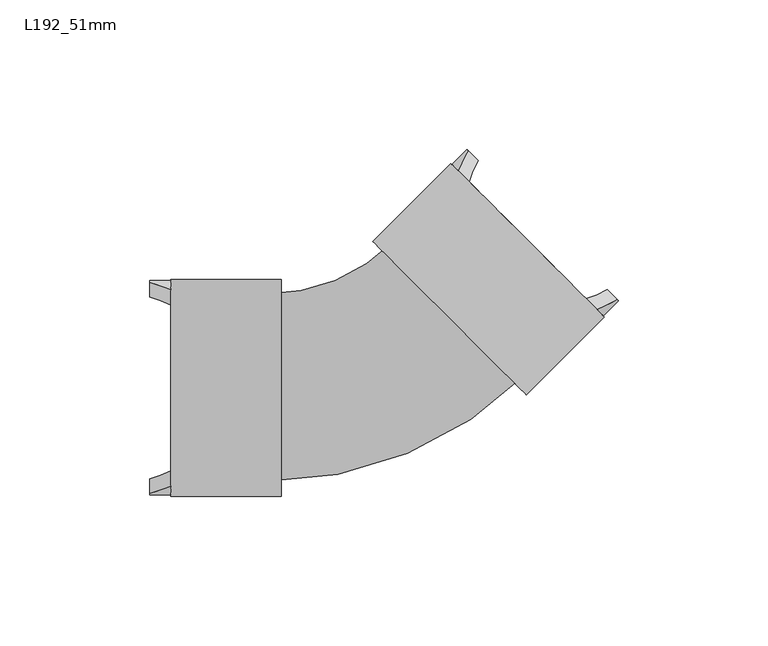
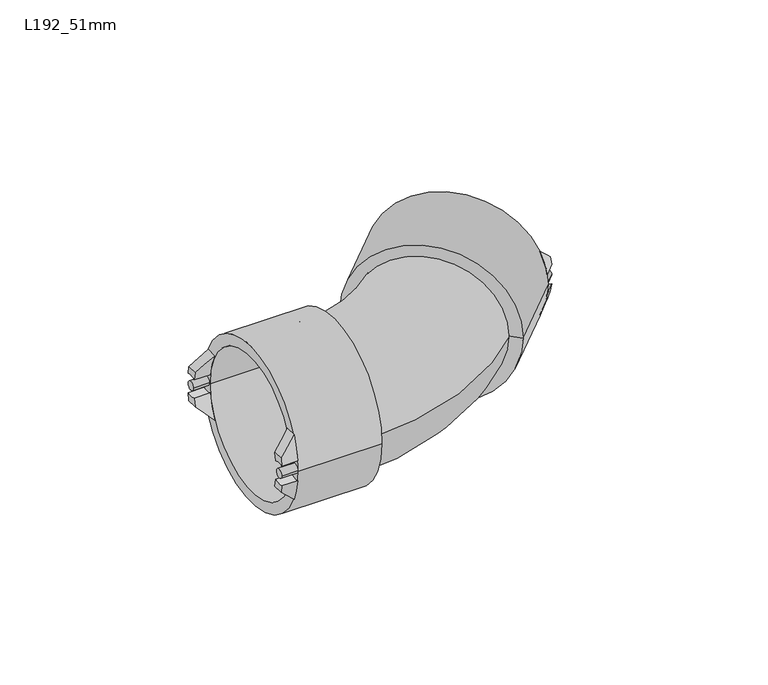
"""IFC4 building model written with IfcOpenShell, lengths in millimetres: pipe fitting geometry, Durapipe_PipeFitting_VulcatheneEnfusion_DoubleSocketSlowBend_L19 : L192_51mm."""

from ifc_helpers import new_model, si_unit, point, frame, frame_2d, origin, place, context, project, spatial, polyline, circle_curve, ellipse_curve, trimmed, segment, composite_curve, outline, extrude, source, transform, mapped, element, save
from ifc_brep_helpers import plane_surface, cylinder_surface, revolved_surface, advanced_brep


def l192_51mm_1da5b1f7(model_context):
    return source(origin(), model_context, "Body", "SolidModel", [
        advanced_brep(
        [(32.3835751, 76.5216847, 4.2618822), (29.0955286, 79.8097313, 4.5669819), (29.5149185, 79.3903413, 7.94), (32.8979738, 76.007286, 7.94), (26.174673, 72.6896706, 15.0), (24.0750704, 74.7892731, 4.5669819), (27.363117, 71.5012266, 4.2618822), (29.8458245, 69.0185191, 15.0)],
        [
            (0, 1, circle_curve(frame((30.534743, 78.3705168, 0.0), z_axis=(-0.7071067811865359, -0.7071067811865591, 0.0), x_axis=(0.7071067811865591, -0.7071067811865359, 0.0)), 5.0)),
            (1, 2, circle_curve(frame((54.4526299, 54.4526299, 0.0), z_axis=(0.7071067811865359, 0.7071067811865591, 0.0), x_axis=(0.7071067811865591, -0.7071067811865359, 0.0)), 36.15)),
            (2, 3),
            (3, 0, circle_curve(frame((54.4526299, 54.4526299, 0.0), z_axis=(-0.7071067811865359, -0.7071067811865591, 0.0), x_axis=(0.7071067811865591, -0.7071067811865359, 0.0)), 31.5)),
            (4, 5, circle_curve(frame((49.4321718, 49.4321718, 0.0), z_axis=(-0.7071067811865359, -0.7071067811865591, 0.0), x_axis=(0.7071067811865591, -0.7071067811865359, 0.0)), 36.15)),
            (5, 6, circle_curve(frame((25.5142849, 73.3500586, 0.0), z_axis=(0.7071067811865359, 0.7071067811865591, 0.0), x_axis=(0.7071067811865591, -0.7071067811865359, 0.0)), 5.0)),
            (6, 7, circle_curve(frame((49.4321718, 49.4321718, 0.0), z_axis=(0.7071067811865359, 0.7071067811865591, 0.0), x_axis=(0.7071067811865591, -0.7071067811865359, 0.0)), 31.5)),
            (7, 4),
            (6, 0),
            (3, 7, ellipse_curve(frame((60.0988676, 60.0988676, 0.0), z_axis=(0.49858558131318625, 0.49858558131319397, 0.7091014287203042), x_axis=(-0.5014104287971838, -0.5014104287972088, 0.705106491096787)), 44.674103, 31.5)),
            (4, 2, ellipse_curve(frame((60.0988676, 60.0988676, 0.0), z_axis=(-0.49858558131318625, -0.49858558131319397, -0.7091014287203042), x_axis=(0.5014104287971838, 0.5014104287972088, -0.705106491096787)), 51.2688515, 36.15)),
            (1, 5),
        ],
        [
            plane_surface(frame((31.1951311, 77.7101287, 15.0), z_axis=(0.7071067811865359, 0.7071067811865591, 0.0), x_axis=(0.7071067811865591, -0.7071067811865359, 0.0))),
            plane_surface(frame((26.174673, 72.6896706, 15.0), z_axis=(-0.7071067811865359, -0.7071067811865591, 0.0), x_axis=(-0.7071067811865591, 0.7071067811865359, 0.0))),
            revolved_surface(polyline([(59.9726700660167, 15.424942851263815, 0.0), (104.77279234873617, 60.22506513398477, 0.0)]), (49.4321718, 49.4321718, 0.0), (-0.7071067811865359, -0.7071067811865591, 0.0)),
            cylinder_surface(frame((49.4321718, 49.4321718, 0.0), z_axis=(0.7071067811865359, 0.7071067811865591, 0.0), x_axis=(0.7071067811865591, -0.7071067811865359, 0.0)), 36.15),
            revolved_surface(polyline([(34.07027700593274, 74.83498289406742, 0.0), (29.049818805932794, 69.81452469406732, 0.0)]), (25.5142849, 73.3500586, 0.0), (0.7071067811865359, 0.7071067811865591, 0.0)),
            plane_surface(frame((74.9940819, 23.8702616, 15.0), z_axis=(0.49858558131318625, 0.49858558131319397, 0.7091014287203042), x_axis=(-0.7071067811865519, 0.7071067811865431, 0.0))),
        ],
        [
            (0, [[1, 2, 3, 4]]),
            (1, [[5, 6, 7, 8]]),
            (2, [[-7, 9, -4, 10]]),
            (3, [[-5, 11, -2, 12]]),
            (4, [[-1, -9, -6, -12]]),
            (5, [[-3, -11, -8, -10]]),
        ],
    ),
        advanced_brep(
        [(29.0955286, 79.8097313, -4.5669819), (32.3835751, 76.5216847, -4.2618822), (32.8979738, 76.007286, -7.94), (29.5149185, 79.3903413, -7.94), (24.0750704, 74.7892731, -4.5669819), (26.174673, 72.6896706, -15.0), (29.8458245, 69.0185191, -15.0), (27.363117, 71.5012266, -4.2618822)],
        [
            (0, 1, circle_curve(frame((30.534743, 78.3705168, 0.0), z_axis=(-0.7071067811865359, -0.7071067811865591, 0.0), x_axis=(0.7071067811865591, -0.7071067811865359, 0.0)), 5.0)),
            (1, 2, circle_curve(frame((54.4526299, 54.4526299, 0.0), z_axis=(-0.7071067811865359, -0.7071067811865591, 0.0), x_axis=(0.7071067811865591, -0.7071067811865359, 0.0)), 31.5)),
            (2, 3),
            (3, 0, circle_curve(frame((54.4526299, 54.4526299, 0.0), z_axis=(0.7071067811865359, 0.7071067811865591, 0.0), x_axis=(0.7071067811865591, -0.7071067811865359, 0.0)), 36.15)),
            (4, 5, circle_curve(frame((49.4321718, 49.4321718, 0.0), z_axis=(-0.7071067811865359, -0.7071067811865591, 0.0), x_axis=(0.7071067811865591, -0.7071067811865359, 0.0)), 36.15)),
            (5, 6),
            (6, 7, circle_curve(frame((49.4321718, 49.4321718, 0.0), z_axis=(0.7071067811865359, 0.7071067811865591, 0.0), x_axis=(0.7071067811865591, -0.7071067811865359, 0.0)), 31.5)),
            (7, 4, circle_curve(frame((25.5142849, 73.3500586, 0.0), z_axis=(0.7071067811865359, 0.7071067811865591, 0.0), x_axis=(0.7071067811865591, -0.7071067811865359, 0.0)), 5.0)),
            (6, 2, ellipse_curve(frame((60.0988676, 60.0988676, 0.0), z_axis=(0.49858558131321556, 0.4985855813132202, -0.7091014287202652), x_axis=(-0.5014104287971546, -0.5014104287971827, -0.7051064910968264)), 44.674103, 31.5)),
            (1, 7),
            (4, 0),
            (3, 5, ellipse_curve(frame((60.0988676, 60.0988676, 0.0), z_axis=(-0.49858558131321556, -0.4985855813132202, 0.7091014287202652), x_axis=(0.5014104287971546, 0.5014104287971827, 0.7051064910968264)), 51.2688515, 36.15)),
        ],
        [
            plane_surface(frame((31.1951311, 77.7101287, 15.0), z_axis=(0.7071067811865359, 0.7071067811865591, 0.0), x_axis=(0.7071067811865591, -0.7071067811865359, 0.0))),
            plane_surface(frame((26.174673, 72.6896706, 15.0), z_axis=(-0.7071067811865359, -0.7071067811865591, 0.0), x_axis=(-0.7071067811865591, 0.7071067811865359, 0.0))),
            revolved_surface(polyline([(59.972670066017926, 15.424942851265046, 0.0), (104.77279234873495, 60.22506513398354, 0.0)]), (49.4321718, 49.4321718, 0.0), (-0.7071067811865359, -0.7071067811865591, 0.0)),
            cylinder_surface(frame((49.4321718, 49.4321718, 0.0), z_axis=(0.7071067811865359, 0.7071067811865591, 0.0), x_axis=(0.7071067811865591, -0.7071067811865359, 0.0)), 36.15),
            revolved_surface(polyline([(34.07027700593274, 74.83498289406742, 0.0), (29.049818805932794, 69.81452469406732, 0.0)]), (25.5142849, 73.3500586, 0.0), (0.7071067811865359, 0.7071067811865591, 0.0)),
            plane_surface(frame((80.0145401, 28.8907198, -7.94), z_axis=(0.49858558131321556, 0.4985855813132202, -0.7091014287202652), x_axis=(-0.7071067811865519, 0.7071067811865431, 0.0))),
        ],
        [
            (0, [[1, 2, 3, 4]]),
            (1, [[5, 6, 7, 8]]),
            (2, [[-7, 9, -2, 10]]),
            (3, [[-5, 11, -4, 12]]),
            (4, [[-1, -11, -8, -10]]),
            (5, [[-3, -9, -6, -12]]),
        ],
    ),
        advanced_brep(
        [(79.8097313, 29.0955286, 4.5669819), (76.5216847, 32.3835751, 4.2618822), (76.007286, 32.8979738, 7.94), (79.3903413, 29.5149185, 7.94), (74.7892731, 24.0750704, 4.5669819), (72.6896706, 26.174673, 15.0), (69.0185191, 29.8458245, 15.0), (71.5012266, 27.363117, 4.2618822)],
        [
            (0, 1, circle_curve(frame((78.3705168, 30.534743, 0.0), z_axis=(-0.7071067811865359, -0.7071067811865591, 0.0), x_axis=(0.7071067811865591, -0.7071067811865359, 0.0)), 5.0)),
            (1, 2, circle_curve(frame((54.4526299, 54.4526299, 0.0), z_axis=(-0.7071067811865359, -0.7071067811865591, 0.0), x_axis=(0.7071067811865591, -0.7071067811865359, 0.0)), 31.5)),
            (2, 3),
            (3, 0, circle_curve(frame((54.4526299, 54.4526299, 0.0), z_axis=(0.7071067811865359, 0.7071067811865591, 0.0), x_axis=(0.7071067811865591, -0.7071067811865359, 0.0)), 36.15)),
            (4, 5, circle_curve(frame((49.4321718, 49.4321718, 0.0), z_axis=(-0.7071067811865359, -0.7071067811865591, 0.0), x_axis=(0.7071067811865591, -0.7071067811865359, 0.0)), 36.15)),
            (5, 6),
            (6, 7, circle_curve(frame((49.4321718, 49.4321718, 0.0), z_axis=(0.7071067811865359, 0.7071067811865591, 0.0), x_axis=(0.7071067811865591, -0.7071067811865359, 0.0)), 31.5)),
            (7, 4, circle_curve(frame((73.3500586, 25.5142849, 0.0), z_axis=(0.7071067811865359, 0.7071067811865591, 0.0), x_axis=(0.7071067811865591, -0.7071067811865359, 0.0)), 5.0)),
            (6, 2, ellipse_curve(frame((60.0988676, 60.0988676, 0.0), z_axis=(0.49858558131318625, 0.49858558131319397, 0.7091014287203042), x_axis=(-0.5014104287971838, -0.5014104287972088, 0.705106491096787)), 44.674103, 31.5)),
            (1, 7),
            (4, 0),
            (3, 5, ellipse_curve(frame((60.0988676, 60.0988676, 0.0), z_axis=(-0.49858558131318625, -0.49858558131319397, -0.7091014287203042), x_axis=(0.5014104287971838, 0.5014104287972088, -0.705106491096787)), 51.2688515, 36.15)),
        ],
        [
            plane_surface(frame((31.1951311, 77.7101287, 15.0), z_axis=(0.7071067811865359, 0.7071067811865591, 0.0), x_axis=(0.7071067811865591, -0.7071067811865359, 0.0))),
            plane_surface(frame((26.174673, 72.6896706, 15.0), z_axis=(-0.7071067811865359, -0.7071067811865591, 0.0), x_axis=(-0.7071067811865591, 0.7071067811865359, 0.0))),
            revolved_surface(polyline([(59.9726700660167, 15.424942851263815, 0.0), (104.77279234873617, 60.22506513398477, 0.0)]), (49.4321718, 49.4321718, 0.0), (-0.7071067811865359, -0.7071067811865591, 0.0)),
            cylinder_surface(frame((49.4321718, 49.4321718, 0.0), z_axis=(0.7071067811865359, 0.7071067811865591, 0.0), x_axis=(0.7071067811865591, -0.7071067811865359, 0.0)), 36.15),
            revolved_surface(polyline([(81.90605070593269, 26.99920919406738, 0.0), (76.88559250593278, 21.978750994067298, 0.0)]), (73.3500586, 25.5142849, 0.0), (0.7071067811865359, 0.7071067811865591, 0.0)),
            plane_surface(frame((74.9940819, 23.8702616, 15.0), z_axis=(0.49858558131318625, 0.49858558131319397, 0.7091014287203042), x_axis=(-0.7071067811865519, 0.7071067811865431, 0.0))),
        ],
        [
            (0, [[1, 2, 3, 4]]),
            (1, [[5, 6, 7, 8]]),
            (2, [[-7, 9, -2, 10]]),
            (3, [[-5, 11, -4, 12]]),
            (4, [[-1, -11, -8, -10]]),
            (5, [[-3, -9, -6, -12]]),
        ],
    ),
        advanced_brep(
        [(76.5216847, 32.3835751, -4.2618822), (79.8097313, 29.0955286, -4.5669819), (79.3903413, 29.5149185, -7.94), (76.007286, 32.8979738, -7.94), (72.6896706, 26.174673, -15.0), (74.7892731, 24.0750704, -4.5669819), (71.5012266, 27.363117, -4.2618822), (69.0185191, 29.8458245, -15.0)],
        [
            (0, 1, circle_curve(frame((78.3705168, 30.534743, 0.0), z_axis=(-0.7071067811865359, -0.7071067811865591, 0.0), x_axis=(0.7071067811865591, -0.7071067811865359, 0.0)), 5.0)),
            (1, 2, circle_curve(frame((54.4526299, 54.4526299, 0.0), z_axis=(0.7071067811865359, 0.7071067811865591, 0.0), x_axis=(0.7071067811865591, -0.7071067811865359, 0.0)), 36.15)),
            (2, 3),
            (3, 0, circle_curve(frame((54.4526299, 54.4526299, 0.0), z_axis=(-0.7071067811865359, -0.7071067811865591, 0.0), x_axis=(0.7071067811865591, -0.7071067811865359, 0.0)), 31.5)),
            (4, 5, circle_curve(frame((49.4321718, 49.4321718, 0.0), z_axis=(-0.7071067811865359, -0.7071067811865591, 0.0), x_axis=(0.7071067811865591, -0.7071067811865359, 0.0)), 36.15)),
            (5, 6, circle_curve(frame((73.3500586, 25.5142849, 0.0), z_axis=(0.7071067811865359, 0.7071067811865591, 0.0), x_axis=(0.7071067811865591, -0.7071067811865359, 0.0)), 5.0)),
            (6, 7, circle_curve(frame((49.4321718, 49.4321718, 0.0), z_axis=(0.7071067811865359, 0.7071067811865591, 0.0), x_axis=(0.7071067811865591, -0.7071067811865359, 0.0)), 31.5)),
            (7, 4),
            (6, 0),
            (3, 7, ellipse_curve(frame((60.0988676, 60.0988676, 0.0), z_axis=(0.49858558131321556, 0.4985855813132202, -0.7091014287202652), x_axis=(-0.5014104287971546, -0.5014104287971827, -0.7051064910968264)), 44.674103, 31.5)),
            (4, 2, ellipse_curve(frame((60.0988676, 60.0988676, 0.0), z_axis=(-0.49858558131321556, -0.4985855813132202, 0.7091014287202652), x_axis=(0.5014104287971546, 0.5014104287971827, 0.7051064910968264)), 51.2688515, 36.15)),
            (1, 5),
        ],
        [
            plane_surface(frame((31.1951311, 77.7101287, 15.0), z_axis=(0.7071067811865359, 0.7071067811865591, 0.0), x_axis=(0.7071067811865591, -0.7071067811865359, 0.0))),
            plane_surface(frame((26.174673, 72.6896706, 15.0), z_axis=(-0.7071067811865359, -0.7071067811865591, 0.0), x_axis=(-0.7071067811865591, 0.7071067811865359, 0.0))),
            revolved_surface(polyline([(59.972670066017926, 15.424942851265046, 0.0), (104.77279234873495, 60.22506513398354, 0.0)]), (49.4321718, 49.4321718, 0.0), (-0.7071067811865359, -0.7071067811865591, 0.0)),
            cylinder_surface(frame((49.4321718, 49.4321718, 0.0), z_axis=(0.7071067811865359, 0.7071067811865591, 0.0), x_axis=(0.7071067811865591, -0.7071067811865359, 0.0)), 36.15),
            revolved_surface(polyline([(81.90605070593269, 26.99920919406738, 0.0), (76.88559250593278, 21.978750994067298, 0.0)]), (73.3500586, 25.5142849, 0.0), (0.7071067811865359, 0.7071067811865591, 0.0)),
            plane_surface(frame((80.0145401, 28.8907198, -7.94), z_axis=(0.49858558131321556, 0.4985855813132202, -0.7091014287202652), x_axis=(-0.7071067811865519, 0.7071067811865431, 0.0))),
        ],
        [
            (0, [[1, 2, 3, 4]]),
            (1, [[5, 6, 7, 8]]),
            (2, [[-7, 9, -4, 10]]),
            (3, [[-5, 11, -2, 12]]),
            (4, [[-1, -9, -6, -12]]),
            (5, [[-3, -11, -8, -10]]),
        ],
    ),
        extrude(outline(composite_curve([segment(trimmed(circle_curve(frame_2d((0.0, -2.0)), 2.0), [point((0.0, -4.0))], [point((0.0, 0.0))], False, "CARTESIAN"), True, "CONTINUOUS"), segment(trimmed(circle_curve(frame_2d((0.0, -2.0)), 2.0), [point((0.0, 0.0))], [point((0.0, -4.0))], False, "CARTESIAN"), True, "CONTINUOUS")], self_intersect=False)), frame((26.9284985, 71.9358451, 0.0), z_axis=(0.7071067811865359, 0.7071067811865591, 0.0), x_axis=(0.0, 0.0, 1.0)), (0.0, 0.0, 1.0), 7.1),
        extrude(outline(composite_curve([segment(trimmed(circle_curve(frame_2d((0.0, 65.65)), 2.0), [point((0.0, 63.65))], [point((0.0, 67.65))], False, "CARTESIAN"), True, "CONTINUOUS"), segment(trimmed(circle_curve(frame_2d((0.0, 65.65)), 2.0), [point((0.0, 67.65))], [point((0.0, 63.65))], False, "CARTESIAN"), True, "CONTINUOUS")], self_intersect=False)), frame((26.9284985, 71.9358451, 0.0), z_axis=(0.7071067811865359, 0.7071067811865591, 0.0), x_axis=(0.0, 0.0, 1.0)), (0.0, 0.0, 1.0), 7.1),
        advanced_brep(
        [(8.4906891, 45.4016631, 0.0), (45.4016631, 8.4906891, 0.0), (49.1139737, 4.7783785, 0.0), (4.7783785, 49.1139737, 0.0), (4.8844446, 41.7954185, 0.0), (41.7954185, 4.8844446, 0.0), (-2.3280446, 49.0079077, 0.0), (49.0079077, -2.3280446, 0.0), (23.7641956, 75.1001479, 0.0), (75.1001479, 23.7641956, 0.0), (27.2643742, 71.5999694, 0.0), (71.5999694, 27.2643742, 0.0)],
        [
            (0, 1, circle_curve(frame((26.9461761, 26.9461761, 0.0), z_axis=(-0.7071067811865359, -0.7071067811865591, 0.0), x_axis=(0.7071067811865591, -0.7071067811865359, 0.0)), 26.1)),
            (1, 2),
            (2, 3, circle_curve(frame((26.9461761, 26.9461761, 0.0), z_axis=(0.7071067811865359, 0.7071067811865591, 0.0), x_axis=(0.7071067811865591, -0.7071067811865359, 0.0)), 31.35)),
            (3, 0),
            (1, 0, circle_curve(frame((26.9461761, 26.9461761, 0.0), z_axis=(-0.7071067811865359, -0.7071067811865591, 0.0), x_axis=(0.7071067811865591, -0.7071067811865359, 0.0)), 26.1)),
            (3, 2, circle_curve(frame((26.9461761, 26.9461761, 0.0), z_axis=(0.7071067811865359, 0.7071067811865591, 0.0), x_axis=(0.7071067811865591, -0.7071067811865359, 0.0)), 31.35)),
            (4, 5, circle_curve(frame((23.3399315, 23.3399315, 0.0), z_axis=(-0.7071067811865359, -0.7071067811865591, 0.0), x_axis=(0.7071067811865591, -0.7071067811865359, 0.0)), 26.1)),
            (5, 1),
            (0, 4),
            (5, 4, circle_curve(frame((23.3399315, 23.3399315, 0.0), z_axis=(-0.7071067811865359, -0.7071067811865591, 0.0), x_axis=(0.7071067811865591, -0.7071067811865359, 0.0)), 26.1)),
            (6, 7, circle_curve(frame((23.3399315, 23.3399315, 0.0), z_axis=(-0.7071067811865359, -0.7071067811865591, 0.0), x_axis=(0.7071067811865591, -0.7071067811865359, 0.0)), 36.3)),
            (7, 5),
            (4, 6),
            (7, 6, circle_curve(frame((23.3399315, 23.3399315, 0.0), z_axis=(-0.7071067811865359, -0.7071067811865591, 0.0), x_axis=(0.7071067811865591, -0.7071067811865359, 0.0)), 36.3)),
            (8, 9, circle_curve(frame((49.4321718, 49.4321718, 0.0), z_axis=(-0.7071067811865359, -0.7071067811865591, 0.0), x_axis=(0.7071067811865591, -0.7071067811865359, 0.0)), 36.3)),
            (9, 7),
            (6, 8),
            (9, 8, circle_curve(frame((49.4321718, 49.4321718, 0.0), z_axis=(-0.7071067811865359, -0.7071067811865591, 0.0), x_axis=(0.7071067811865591, -0.7071067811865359, 0.0)), 36.3)),
            (10, 11, circle_curve(frame((49.4321718, 49.4321718, 0.0), z_axis=(-0.7071067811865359, -0.7071067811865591, 0.0), x_axis=(0.7071067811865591, -0.7071067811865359, 0.0)), 31.35)),
            (11, 9),
            (8, 10),
            (11, 10, circle_curve(frame((49.4321718, 49.4321718, 0.0), z_axis=(-0.7071067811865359, -0.7071067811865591, 0.0), x_axis=(0.7071067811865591, -0.7071067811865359, 0.0)), 31.35)),
            (2, 11),
            (10, 3),
        ],
        [
            plane_surface(frame((26.9461761, 26.9461761, 0.0), z_axis=(0.7071067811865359, 0.7071067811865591, 0.0), x_axis=(0.7071067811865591, -0.7071067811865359, 0.0))),
            revolved_surface(polyline([(45.40166308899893, 8.490689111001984, 0.0), (41.79541848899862, 4.884444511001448, 0.0)]), (1827.086333, 1827.086333, 0.0), (0.7071067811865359, 0.7071067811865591, 0.0)),
            plane_surface(frame((23.3399315, 23.3399315, 0.0), z_axis=(-0.7071067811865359, -0.7071067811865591, 0.0), x_axis=(0.7071067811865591, -0.7071067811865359, 0.0))),
            cylinder_surface(frame((1827.086333, 1827.086333, 0.0), z_axis=(0.7071067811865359, 0.7071067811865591, 0.0), x_axis=(0.7071067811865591, -0.7071067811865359, 0.0)), 36.3),
            plane_surface(frame((49.4321718, 49.4321718, 0.0), z_axis=(0.7071067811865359, 0.7071067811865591, 0.0), x_axis=(0.7071067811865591, -0.7071067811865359, 0.0))),
            revolved_surface(polyline([(71.59996939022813, 27.264374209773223, 0.0), (49.113973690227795, 4.778378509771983, 0.0)]), (1827.086333, 1827.086333, 0.0), (0.7071067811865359, 0.7071067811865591, 0.0)),
        ],
        [
            (0, [[1, 2, 3, 4]]),
            (0, [[5, -4, 6, -2]]),
            (1, [[7, 8, -1, 9]]),
            (1, [[10, -9, -5, -8]]),
            (2, [[11, 12, -7, 13]]),
            (2, [[14, -13, -10, -12]]),
            (3, [[15, 16, -11, 17]]),
            (3, [[18, -17, -14, -16]]),
            (4, [[19, 20, -15, 21]]),
            (4, [[22, -21, -18, -20]]),
            (5, [[-3, 23, -19, 24]]),
            (5, [[-6, -24, -22, -23]]),
        ],
    ),
        advanced_brep(
        [(-77.0076477, 31.2103566, -4.2618822), (-77.0076477, 35.8603566, -4.5669819), (-77.0076477, 35.2672497, -7.94), (-77.0076477, 30.482887, -7.94), (-69.9076477, 32.8910702, -15.0), (-69.9076477, 35.8603566, -4.5669819), (-69.9076477, 31.2103566, -4.2618822), (-69.9076477, 27.699278, -15.0)],
        [
            (0, 1, circle_curve(frame((-77.0076477, 33.825, 0.0), z_axis=(1.0, 0.0, 0.0), x_axis=(0.0, -1.0, 0.0)), 5.0)),
            (1, 2, circle_curve(frame((-77.0076477, 0.0, 0.0), z_axis=(-1.0, 0.0, 0.0), x_axis=(0.0, -1.0, 0.0)), 36.15)),
            (2, 3),
            (3, 0, circle_curve(frame((-77.0076477, 0.0, 0.0), z_axis=(1.0, 0.0, 0.0), x_axis=(0.0, -1.0, 0.0)), 31.5)),
            (4, 5, circle_curve(frame((-69.9076477, 0.0, 0.0), z_axis=(1.0, 0.0, 0.0), x_axis=(0.0, -1.0, 0.0)), 36.15)),
            (5, 6, circle_curve(frame((-69.9076477, 33.825, 0.0), z_axis=(-1.0, 0.0, 0.0), x_axis=(0.0, -1.0, 0.0)), 5.0)),
            (6, 7, circle_curve(frame((-69.9076477, 0.0, 0.0), z_axis=(-1.0, 0.0, 0.0), x_axis=(0.0, -1.0, 0.0)), 31.5)),
            (7, 4),
            (6, 0),
            (3, 7, ellipse_curve(frame((-84.9926336, 0.0, 0.0), z_axis=(-0.705106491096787, 0.0, -0.7091014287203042), x_axis=(0.7091014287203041, 0.0, -0.705106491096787)), 44.674103, 31.5)),
            (4, 2, ellipse_curve(frame((-84.9926336, 0.0, 0.0), z_axis=(0.705106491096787, 0.0, 0.7091014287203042), x_axis=(-0.7091014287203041, 0.0, 0.705106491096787)), 51.2688515, 36.15)),
            (1, 5),
        ],
        [
            plane_surface(frame((-77.0076477, 32.8910702, -15.0), z_axis=(-1.0, 0.0, 0.0), x_axis=(0.0, -1.0, 0.0))),
            plane_surface(frame((-69.9076477, 32.8910702, -15.0), z_axis=(1.0, 0.0, 0.0), x_axis=(0.0, 1.0, 0.0))),
            revolved_surface(polyline([(-53.31416333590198, -31.5, 0.0), (-116.67110386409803, -31.5, 0.0)]), (-69.9076477, 0.0, 0.0), (1.0, 0.0, 0.0)),
            cylinder_surface(frame((-69.9076477, 0.0, 0.0), z_axis=(-1.0, 0.0, 0.0), x_axis=(0.0, -1.0, 0.0)), 36.15),
            revolved_surface(polyline([(-77.0076477, 28.825000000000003, 0.0), (-69.9076477, 28.825000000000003, 0.0)]), (-69.9076477, 33.825, 0.0), (-1.0, 0.0, 0.0)),
            plane_surface(frame((-69.9076477, -36.15, -15.0), z_axis=(-0.705106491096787, 0.0, -0.7091014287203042), x_axis=(0.0, 1.0, 0.0))),
        ],
        [
            (0, [[1, 2, 3, 4]]),
            (1, [[5, 6, 7, 8]]),
            (2, [[-7, 9, -4, 10]]),
            (3, [[-5, 11, -2, 12]]),
            (4, [[-1, -9, -6, -12]]),
            (5, [[-3, -11, -8, -10]]),
        ],
    ),
        advanced_brep(
        [(-77.0076477, 35.8603566, 4.5669819), (-77.0076477, 31.2103566, 4.2618822), (-77.0076477, 30.482887, 7.94), (-77.0076477, 35.2672497, 7.94), (-69.9076477, 35.8603566, 4.5669819), (-69.9076477, 32.8910702, 15.0), (-69.9076477, 27.699278, 15.0), (-69.9076477, 31.2103566, 4.2618822)],
        [
            (0, 1, circle_curve(frame((-77.0076477, 33.825, 0.0), z_axis=(1.0, 0.0, 0.0), x_axis=(0.0, -1.0, 0.0)), 5.0)),
            (1, 2, circle_curve(frame((-77.0076477, 0.0, 0.0), z_axis=(1.0, 0.0, 0.0), x_axis=(0.0, -1.0, 0.0)), 31.5)),
            (2, 3),
            (3, 0, circle_curve(frame((-77.0076477, 0.0, 0.0), z_axis=(-1.0, 0.0, 0.0), x_axis=(0.0, -1.0, 0.0)), 36.15)),
            (4, 5, circle_curve(frame((-69.9076477, 0.0, 0.0), z_axis=(1.0, 0.0, 0.0), x_axis=(0.0, -1.0, 0.0)), 36.15)),
            (5, 6),
            (6, 7, circle_curve(frame((-69.9076477, 0.0, 0.0), z_axis=(-1.0, 0.0, 0.0), x_axis=(0.0, -1.0, 0.0)), 31.5)),
            (7, 4, circle_curve(frame((-69.9076477, 33.825, 0.0), z_axis=(-1.0, 0.0, 0.0), x_axis=(0.0, -1.0, 0.0)), 5.0)),
            (6, 2, ellipse_curve(frame((-84.9926336, 0.0, 0.0), z_axis=(-0.7051064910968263, 0.0, 0.7091014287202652), x_axis=(0.7091014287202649, 0.0, 0.7051064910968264)), 44.674103, 31.5)),
            (1, 7),
            (4, 0),
            (3, 5, ellipse_curve(frame((-84.9926336, 0.0, 0.0), z_axis=(0.7051064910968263, 0.0, -0.7091014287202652), x_axis=(-0.7091014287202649, 0.0, -0.7051064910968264)), 51.2688515, 36.15)),
        ],
        [
            plane_surface(frame((-77.0076477, 32.8910702, -15.0), z_axis=(-1.0, 0.0, 0.0), x_axis=(0.0, -1.0, 0.0))),
            plane_surface(frame((-69.9076477, 32.8910702, -15.0), z_axis=(1.0, 0.0, 0.0), x_axis=(0.0, 1.0, 0.0))),
            revolved_surface(polyline([(-53.31416333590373, -31.5, 0.0), (-116.67110386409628, -31.5, 0.0)]), (-69.9076477, 0.0, 0.0), (1.0, 0.0, 0.0)),
            cylinder_surface(frame((-69.9076477, 0.0, 0.0), z_axis=(-1.0, 0.0, 0.0), x_axis=(0.0, -1.0, 0.0)), 36.15),
            revolved_surface(polyline([(-77.0076477, 28.825000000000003, 0.0), (-69.9076477, 28.825000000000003, 0.0)]), (-69.9076477, 33.825, 0.0), (-1.0, 0.0, 0.0)),
            plane_surface(frame((-77.0076477, -36.15, 7.94), z_axis=(-0.7051064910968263, 0.0, 0.7091014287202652), x_axis=(0.0, 1.0, 0.0))),
        ],
        [
            (0, [[1, 2, 3, 4]]),
            (1, [[5, 6, 7, 8]]),
            (2, [[-7, 9, -2, 10]]),
            (3, [[-5, 11, -4, 12]]),
            (4, [[-1, -11, -8, -10]]),
            (5, [[-3, -9, -6, -12]]),
        ],
    ),
        advanced_brep(
        [(-77.0076477, -35.8603566, -4.5669819), (-77.0076477, -31.2103566, -4.2618822), (-77.0076477, -30.482887, -7.94), (-77.0076477, -35.2672497, -7.94), (-69.9076477, -35.8603566, -4.5669819), (-69.9076477, -32.8910702, -15.0), (-69.9076477, -27.699278, -15.0), (-69.9076477, -31.2103566, -4.2618822)],
        [
            (0, 1, circle_curve(frame((-77.0076477, -33.825, 0.0), z_axis=(1.0, 0.0, 0.0), x_axis=(0.0, -1.0, 0.0)), 5.0)),
            (1, 2, circle_curve(frame((-77.0076477, 0.0, 0.0), z_axis=(1.0, 0.0, 0.0), x_axis=(0.0, -1.0, 0.0)), 31.5)),
            (2, 3),
            (3, 0, circle_curve(frame((-77.0076477, 0.0, 0.0), z_axis=(-1.0, 0.0, 0.0), x_axis=(0.0, -1.0, 0.0)), 36.15)),
            (4, 5, circle_curve(frame((-69.9076477, 0.0, 0.0), z_axis=(1.0, 0.0, 0.0), x_axis=(0.0, -1.0, 0.0)), 36.15)),
            (5, 6),
            (6, 7, circle_curve(frame((-69.9076477, 0.0, 0.0), z_axis=(-1.0, 0.0, 0.0), x_axis=(0.0, -1.0, 0.0)), 31.5)),
            (7, 4, circle_curve(frame((-69.9076477, -33.825, 0.0), z_axis=(-1.0, 0.0, 0.0), x_axis=(0.0, -1.0, 0.0)), 5.0)),
            (6, 2, ellipse_curve(frame((-84.9926336, 0.0, 0.0), z_axis=(-0.705106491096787, 0.0, -0.7091014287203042), x_axis=(0.7091014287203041, 0.0, -0.705106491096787)), 44.674103, 31.5)),
            (1, 7),
            (4, 0),
            (3, 5, ellipse_curve(frame((-84.9926336, 0.0, 0.0), z_axis=(0.705106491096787, 0.0, 0.7091014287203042), x_axis=(-0.7091014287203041, 0.0, 0.705106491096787)), 51.2688515, 36.15)),
        ],
        [
            plane_surface(frame((-77.0076477, 32.8910702, -15.0), z_axis=(-1.0, 0.0, 0.0), x_axis=(0.0, -1.0, 0.0))),
            plane_surface(frame((-69.9076477, 32.8910702, -15.0), z_axis=(1.0, 0.0, 0.0), x_axis=(0.0, 1.0, 0.0))),
            revolved_surface(polyline([(-53.31416333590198, -31.5, 0.0), (-116.67110386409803, -31.5, 0.0)]), (-69.9076477, 0.0, 0.0), (1.0, 0.0, 0.0)),
            cylinder_surface(frame((-69.9076477, 0.0, 0.0), z_axis=(-1.0, 0.0, 0.0), x_axis=(0.0, -1.0, 0.0)), 36.15),
            revolved_surface(polyline([(-77.0076477, -38.825, 0.0), (-69.9076477, -38.825, 0.0)]), (-69.9076477, -33.825, 0.0), (-1.0, 0.0, 0.0)),
            plane_surface(frame((-69.9076477, -36.15, -15.0), z_axis=(-0.705106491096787, 0.0, -0.7091014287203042), x_axis=(0.0, 1.0, 0.0))),
        ],
        [
            (0, [[1, 2, 3, 4]]),
            (1, [[5, 6, 7, 8]]),
            (2, [[-7, 9, -2, 10]]),
            (3, [[-5, 11, -4, 12]]),
            (4, [[-1, -11, -8, -10]]),
            (5, [[-3, -9, -6, -12]]),
        ],
    ),
        advanced_brep(
        [(-77.0076477, -31.2103566, 4.2618822), (-77.0076477, -35.8603566, 4.5669819), (-77.0076477, -35.2672497, 7.94), (-77.0076477, -30.482887, 7.94), (-69.9076477, -32.8910702, 15.0), (-69.9076477, -35.8603566, 4.5669819), (-69.9076477, -31.2103566, 4.2618822), (-69.9076477, -27.699278, 15.0)],
        [
            (0, 1, circle_curve(frame((-77.0076477, -33.825, 0.0), z_axis=(1.0, 0.0, 0.0), x_axis=(0.0, -1.0, 0.0)), 5.0)),
            (1, 2, circle_curve(frame((-77.0076477, 0.0, 0.0), z_axis=(-1.0, 0.0, 0.0), x_axis=(0.0, -1.0, 0.0)), 36.15)),
            (2, 3),
            (3, 0, circle_curve(frame((-77.0076477, 0.0, 0.0), z_axis=(1.0, 0.0, 0.0), x_axis=(0.0, -1.0, 0.0)), 31.5)),
            (4, 5, circle_curve(frame((-69.9076477, 0.0, 0.0), z_axis=(1.0, 0.0, 0.0), x_axis=(0.0, -1.0, 0.0)), 36.15)),
            (5, 6, circle_curve(frame((-69.9076477, -33.825, 0.0), z_axis=(-1.0, 0.0, 0.0), x_axis=(0.0, -1.0, 0.0)), 5.0)),
            (6, 7, circle_curve(frame((-69.9076477, 0.0, 0.0), z_axis=(-1.0, 0.0, 0.0), x_axis=(0.0, -1.0, 0.0)), 31.5)),
            (7, 4),
            (6, 0),
            (3, 7, ellipse_curve(frame((-84.9926336, 0.0, 0.0), z_axis=(-0.7051064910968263, 0.0, 0.7091014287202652), x_axis=(0.7091014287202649, 0.0, 0.7051064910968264)), 44.674103, 31.5)),
            (4, 2, ellipse_curve(frame((-84.9926336, 0.0, 0.0), z_axis=(0.7051064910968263, 0.0, -0.7091014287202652), x_axis=(-0.7091014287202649, 0.0, -0.7051064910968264)), 51.2688515, 36.15)),
            (1, 5),
        ],
        [
            plane_surface(frame((-77.0076477, 32.8910702, -15.0), z_axis=(-1.0, 0.0, 0.0), x_axis=(0.0, -1.0, 0.0))),
            plane_surface(frame((-69.9076477, 32.8910702, -15.0), z_axis=(1.0, 0.0, 0.0), x_axis=(0.0, 1.0, 0.0))),
            revolved_surface(polyline([(-53.31416333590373, -31.5, 0.0), (-116.67110386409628, -31.5, 0.0)]), (-69.9076477, 0.0, 0.0), (1.0, 0.0, 0.0)),
            cylinder_surface(frame((-69.9076477, 0.0, 0.0), z_axis=(-1.0, 0.0, 0.0), x_axis=(0.0, -1.0, 0.0)), 36.15),
            revolved_surface(polyline([(-77.0076477, -38.825, 0.0), (-69.9076477, -38.825, 0.0)]), (-69.9076477, -33.825, 0.0), (-1.0, 0.0, 0.0)),
            plane_surface(frame((-77.0076477, -36.15, 7.94), z_axis=(-0.7051064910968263, 0.0, 0.7091014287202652), x_axis=(0.0, 1.0, 0.0))),
        ],
        [
            (0, [[1, 2, 3, 4]]),
            (1, [[5, 6, 7, 8]]),
            (2, [[-7, 9, -4, 10]]),
            (3, [[-5, 11, -2, 12]]),
            (4, [[-1, -9, -6, -12]]),
            (5, [[-3, -11, -8, -10]]),
        ],
    ),
        extrude(outline(composite_curve([segment(trimmed(circle_curve(frame_2d((33.825, 0.0)), 2.0), [point((35.825, 0.0))], [point((31.825, 0.0))], False, "CARTESIAN"), True, "CONTINUOUS"), segment(trimmed(circle_curve(frame_2d((33.825, 0.0)), 2.0), [point((31.825, 0.0))], [point((35.825, 0.0))], False, "CARTESIAN"), True, "CONTINUOUS")], self_intersect=False)), frame((-77.0076477, 0.0, 0.0), z_axis=(1.0, 0.0, 0.0), x_axis=(0.0, 1.0, 0.0)), (0.0, 0.0, 1.0), 7.1),
        extrude(outline(composite_curve([segment(trimmed(circle_curve(frame_2d((-33.825, 0.0)), 2.0), [point((-31.825, 0.0))], [point((-35.825, 0.0))], False, "CARTESIAN"), True, "CONTINUOUS"), segment(trimmed(circle_curve(frame_2d((-33.825, 0.0)), 2.0), [point((-35.825, 0.0))], [point((-31.825, 0.0))], False, "CARTESIAN"), True, "CONTINUOUS")], self_intersect=False)), frame((-77.0076477, 0.0, 0.0), z_axis=(1.0, 0.0, 0.0), x_axis=(0.0, 1.0, 0.0)), (0.0, 0.0, 1.0), 7.1),
        advanced_brep(
        [(-38.1076477, 26.1, 0.0), (-38.1076477, -26.1, 0.0), (-38.1076477, -31.35, 0.0), (-38.1076477, 31.35, 0.0), (-33.0076477, 26.1, 0.0), (-33.0076477, -26.1, 0.0), (-33.0076477, 36.3, 0.0), (-33.0076477, -36.3, 0.0), (-69.9076477, 36.3, 0.0), (-69.9076477, -36.3, 0.0), (-69.9076477, 31.35, 0.0), (-69.9076477, -31.35, 0.0)],
        [
            (0, 1, circle_curve(frame((-38.1076477, 0.0, 0.0), z_axis=(1.0, 0.0, 0.0), x_axis=(0.0, -1.0, 0.0)), 26.1)),
            (1, 2),
            (2, 3, circle_curve(frame((-38.1076477, 0.0, 0.0), z_axis=(-1.0, 0.0, 0.0), x_axis=(0.0, -1.0, 0.0)), 31.35)),
            (3, 0),
            (1, 0, circle_curve(frame((-38.1076477, 0.0, 0.0), z_axis=(1.0, 0.0, 0.0), x_axis=(0.0, -1.0, 0.0)), 26.1)),
            (3, 2, circle_curve(frame((-38.1076477, 0.0, 0.0), z_axis=(-1.0, 0.0, 0.0), x_axis=(0.0, -1.0, 0.0)), 31.35)),
            (4, 5, circle_curve(frame((-33.0076477, 0.0, 0.0), z_axis=(1.0, 0.0, 0.0), x_axis=(0.0, -1.0, 0.0)), 26.1)),
            (5, 1),
            (0, 4),
            (5, 4, circle_curve(frame((-33.0076477, 0.0, 0.0), z_axis=(1.0, 0.0, 0.0), x_axis=(0.0, -1.0, 0.0)), 26.1)),
            (6, 7, circle_curve(frame((-33.0076477, 0.0, 0.0), z_axis=(1.0, 0.0, 0.0), x_axis=(0.0, -1.0, 0.0)), 36.3)),
            (7, 5),
            (4, 6),
            (7, 6, circle_curve(frame((-33.0076477, 0.0, 0.0), z_axis=(1.0, 0.0, 0.0), x_axis=(0.0, -1.0, 0.0)), 36.3)),
            (8, 9, circle_curve(frame((-69.9076477, 0.0, 0.0), z_axis=(1.0, 0.0, 0.0), x_axis=(0.0, -1.0, 0.0)), 36.3)),
            (9, 7),
            (6, 8),
            (9, 8, circle_curve(frame((-69.9076477, 0.0, 0.0), z_axis=(1.0, 0.0, 0.0), x_axis=(0.0, -1.0, 0.0)), 36.3)),
            (10, 11, circle_curve(frame((-69.9076477, 0.0, 0.0), z_axis=(1.0, 0.0, 0.0), x_axis=(0.0, -1.0, 0.0)), 31.35)),
            (11, 9),
            (8, 10),
            (11, 10, circle_curve(frame((-69.9076477, 0.0, 0.0), z_axis=(1.0, 0.0, 0.0), x_axis=(0.0, -1.0, 0.0)), 31.35)),
            (2, 11),
            (10, 3),
        ],
        [
            plane_surface(frame((-38.1076477, 0.0, 0.0), z_axis=(-1.0, 0.0, 0.0), x_axis=(0.0, -1.0, 0.0))),
            revolved_surface(polyline([(-38.10764770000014, -26.1, 0.0), (-33.00764769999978, -26.1, 0.0)]), (-2583.8902718, 0.0, 0.0), (-1.0, 0.0, 0.0)),
            plane_surface(frame((-33.0076477, 0.0, 0.0), z_axis=(1.0, 0.0, 0.0), x_axis=(0.0, -1.0, 0.0))),
            cylinder_surface(frame((-2583.8902718, 0.0, 0.0), z_axis=(-1.0, 0.0, 0.0), x_axis=(0.0, -1.0, 0.0)), 36.3),
            plane_surface(frame((-69.9076477, 0.0, 0.0), z_axis=(-1.0, 0.0, 0.0), x_axis=(0.0, -1.0, 0.0))),
            revolved_surface(polyline([(-69.90764769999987, -31.35, 0.0), (-38.10764770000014, -31.35, 0.0)]), (-2583.8902718, 0.0, 0.0), (-1.0, 0.0, 0.0)),
        ],
        [
            (0, [[1, 2, 3, 4]]),
            (0, [[5, -4, 6, -2]]),
            (1, [[7, 8, -1, 9]]),
            (1, [[10, -9, -5, -8]]),
            (2, [[11, 12, -7, 13]]),
            (2, [[14, -13, -10, -12]]),
            (3, [[15, 16, -11, 17]]),
            (3, [[18, -17, -14, -16]]),
            (4, [[19, 20, -15, 21]]),
            (4, [[22, -21, -18, -20]]),
            (5, [[-3, 23, -19, 24]]),
            (5, [[-6, -24, -22, -23]]),
        ],
    ),
        advanced_brep(
        [(-38.1076477, -31.35, 0.0), (-38.1076477, 31.35, 0.0), (-38.1076477, -26.1, 0.0), (-38.1076477, 26.1, 0.0), (49.1139737, 4.7783785, 0.0), (4.7783785, 49.1139737, 0.0), (45.4016631, 8.4906891, 0.0), (8.4906891, 45.4016631, 0.0)],
        [
            (0, 1, circle_curve(frame((-38.1076477, 0.0, 0.0), z_axis=(-1.0, 0.0, 0.0), x_axis=(0.0, 1.0, 0.0)), 31.35)),
            (1, 0, circle_curve(frame((-38.1076477, 0.0, 0.0), z_axis=(-1.0, 0.0, 0.0), x_axis=(0.0, 1.0, 0.0)), 31.35)),
            (2, 3, circle_curve(frame((-38.1076477, 0.0, 0.0), z_axis=(1.0, 0.0, 0.0), x_axis=(0.0, 1.0, 0.0)), 26.1)),
            (3, 2, circle_curve(frame((-38.1076477, 0.0, 0.0), z_axis=(1.0, 0.0, 0.0), x_axis=(0.0, 1.0, 0.0)), 26.1)),
            (4, 5, circle_curve(frame((26.9461761, 26.9461761, 0.0), z_axis=(0.7071067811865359, 0.7071067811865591, 0.0), x_axis=(-0.7071067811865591, 0.7071067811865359, 0.0)), 31.35)),
            (5, 4, circle_curve(frame((26.9461761, 26.9461761, 0.0), z_axis=(0.7071067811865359, 0.7071067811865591, 0.0), x_axis=(-0.7071067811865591, 0.7071067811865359, 0.0)), 31.35)),
            (6, 7, circle_curve(frame((26.9461761, 26.9461761, 0.0), z_axis=(-0.7071067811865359, -0.7071067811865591, 0.0), x_axis=(-0.7071067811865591, 0.7071067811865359, 0.0)), 26.1)),
            (7, 6, circle_curve(frame((26.9461761, 26.9461761, 0.0), z_axis=(-0.7071067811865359, -0.7071067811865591, 0.0), x_axis=(-0.7071067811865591, 0.7071067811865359, 0.0)), 26.1)),
            (7, 3, circle_curve(frame((-38.1076477, 92.0, 0.0), z_axis=(0.0, 0.0, -1.0), x_axis=(0.0, -1.0, 0.0)), 65.9)),
            (2, 6, circle_curve(frame((-38.1076477, 92.0, 0.0), z_axis=(0.0, 0.0, 1.0), x_axis=(0.0, -1.0, 0.0)), 118.1)),
            (5, 1, circle_curve(frame((-38.1076477, 92.0, 0.0), z_axis=(0.0, 0.0, -1.0), x_axis=(0.0, -1.0, 0.0)), 60.65)),
            (0, 4, circle_curve(frame((-38.1076477, 92.0, 0.0), z_axis=(0.0, 0.0, 1.0), x_axis=(0.0, -1.0, 0.0)), 123.35)),
        ],
        [
            plane_surface(frame((-38.1076477, 0.0, 0.0), z_axis=(-1.0, 0.0, 0.0), x_axis=(0.0, 0.0, 1.0))),
            plane_surface(frame((26.9461761, 26.9461761, 0.0), z_axis=(0.7071067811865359, 0.7071067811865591, 0.0), x_axis=(0.0, 0.0, 1.0))),
            revolved_surface(trimmed(ellipse_curve(frame((-38.1076477, 0.0, 0.0), z_axis=(1.0, 0.0, 0.0), x_axis=(0.0, 1.0, 0.0)), 26.1, 26.1), [point((-38.1076477, -26.1, 0.0))], [point((-38.1076477, 26.1, 0.0))], True, "CARTESIAN"), (-38.1076477, 92.0, 0.0), (0.0, 0.0, 1.0)),
            revolved_surface(trimmed(ellipse_curve(frame((-38.1076477, 0.0, 0.0), z_axis=(1.0, 0.0, 0.0), x_axis=(0.0, 1.0, 0.0)), 26.1, 26.1), [point((-38.1076477, 26.1, 0.0))], [point((-38.1076477, -26.1, 0.0))], True, "CARTESIAN"), (-38.1076477, 92.0, 0.0), (0.0, 0.0, 1.0)),
            revolved_surface(trimmed(ellipse_curve(frame((-38.1076477, 0.0, 0.0), z_axis=(-1.0, 0.0, 0.0), x_axis=(0.0, 1.0, 0.0)), 31.35, 31.35), [point((-38.1076477, -31.35, 0.0))], [point((-38.1076477, 31.35, 0.0))], True, "CARTESIAN"), (-38.1076477, 92.0, 0.0), (0.0, 0.0, 1.0)),
            revolved_surface(trimmed(ellipse_curve(frame((-38.1076477, 0.0, 0.0), z_axis=(-1.0, 0.0, 0.0), x_axis=(0.0, 1.0, 0.0)), 31.35, 31.35), [point((-38.1076477, 31.35, 0.0))], [point((-38.1076477, -31.35, 0.0))], True, "CARTESIAN"), (-38.1076477, 92.0, 0.0), (0.0, 0.0, 1.0)),
        ],
        [
            (0, [[1, 2], [3, 4]]),
            (1, [[5, 6], [7, 8]]),
            (2, [[9, -3, 10, -8]]),
            (3, [[-10, -4, -9, -7]]),
            (4, [[11, -1, 12, -6]]),
            (5, [[-12, -2, -11, -5]]),
        ],
    ),
    ])


if __name__ == "__main__":
    model = new_model("IFC4")
    model_context = context("Model", 3, world=origin())
    ifc_project = project(units=[si_unit("LENGTHUNIT", "METRE", prefix="MILLI")], contexts=[model_context])
    site = spatial("IfcSite", under=ifc_project)
    building = spatial("IfcBuilding", under=site)
    placement = place(None, origin())
    l192_51mm_shape = l192_51mm_1da5b1f7(model_context)
    element("IfcPipeFitting", 1, ObjectType="Durapipe_PipeFitting_VulcatheneEnfusion_DoubleSocketSlowBend_L19 : L192_51mm", at=placement, inside=building, context=model_context, shape_type="MappedRepresentation", body=[
        mapped(l192_51mm_shape, transform((0.0, 0.0, 0.0), x_axis=(1.0, 0.0, 0.0), y_axis=(0.0, 1.0, 0.0), z_axis=(0.0, 0.0, 1.0))),
    ])
    save(model, "model.ifc")
